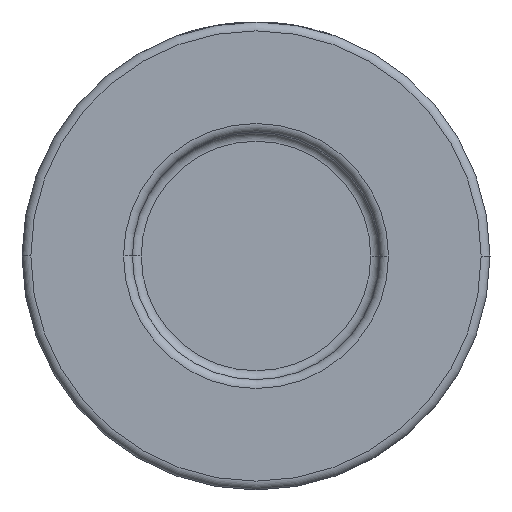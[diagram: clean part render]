
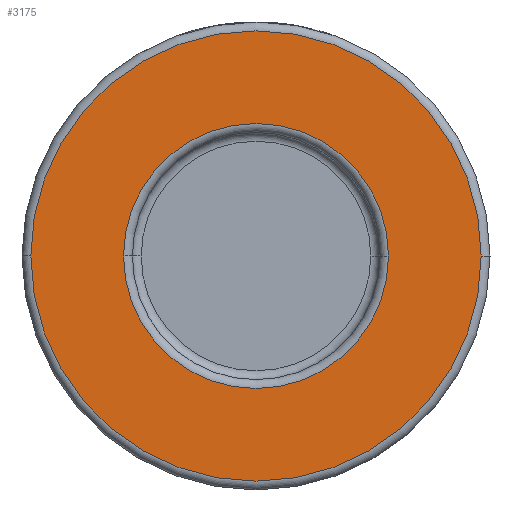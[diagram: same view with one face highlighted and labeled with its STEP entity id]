
A CAD part, front view. The second image highlights one B-rep face of the part: STEP entity #3175.
In plain terms, the highlighted planar face has unit normal (0, -1, 0).
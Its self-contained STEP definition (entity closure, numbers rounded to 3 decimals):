
#198 = AXIS2_PLACEMENT_3D ( 'NONE', #1016, #1707, #360 ) ;
#360 = DIRECTION ( 'NONE',  ( 1., 0., 0. ) ) ;
#402 = FACE_OUTER_BOUND ( 'NONE', #2369, .T. ) ;
#429 = CARTESIAN_POINT ( 'NONE',  ( -15., -16., 0. ) ) ;
#463 = DIRECTION ( 'NONE',  ( 0., 1., 0. ) ) ;
#486 = CIRCLE ( 'NONE', #4276, 15. ) ;
#523 = EDGE_LOOP ( 'NONE', ( #2312, #2915 ) ) ;
#676 = PLANE ( 'NONE',  #198 ) ;
#677 = DIRECTION ( 'NONE',  ( 1., 0., 0. ) ) ;
#757 = VERTEX_POINT ( 'NONE', #1820 ) ;
#801 = DIRECTION ( 'NONE',  ( 0., 1., 0. ) ) ;
#879 = CIRCLE ( 'NONE', #3044, 15. ) ;
#1016 = CARTESIAN_POINT ( 'NONE',  ( 26.5, -16., 0. ) ) ;
#1023 = DIRECTION ( 'NONE',  ( 0., -1., 0. ) ) ;
#1029 = EDGE_CURVE ( 'NONE', #2704, #757, #1166, .T. ) ;
#1052 = EDGE_CURVE ( 'NONE', #1578, #1614, #879, .T. ) ;
#1166 = CIRCLE ( 'NONE', #4388, 25.5 ) ;
#1203 = DIRECTION ( 'NONE',  ( 1., 0., 0. ) ) ;
#1292 = CARTESIAN_POINT ( 'NONE',  ( -25.5, -16., 0. ) ) ;
#1390 = FACE_BOUND ( 'NONE', #523, .T. ) ;
#1412 = DIRECTION ( 'NONE',  ( 1., 0., 0. ) ) ;
#1533 = CARTESIAN_POINT ( 'NONE',  ( 0., -16., 0. ) ) ;
#1578 = VERTEX_POINT ( 'NONE', #1800 ) ;
#1614 = VERTEX_POINT ( 'NONE', #429 ) ;
#1707 = DIRECTION ( 'NONE',  ( 0., -1., 0. ) ) ;
#1800 = CARTESIAN_POINT ( 'NONE',  ( 15., -16., 0. ) ) ;
#1820 = CARTESIAN_POINT ( 'NONE',  ( 25.5, -16., 0. ) ) ;
#1840 = EDGE_CURVE ( 'NONE', #757, #2704, #4058, .T. ) ;
#2065 = ORIENTED_EDGE ( 'NONE', *, *, #1840, .T. ) ;
#2127 = AXIS2_PLACEMENT_3D ( 'NONE', #3113, #1023, #3450 ) ;
#2170 = ORIENTED_EDGE ( 'NONE', *, *, #1029, .T. ) ;
#2312 = ORIENTED_EDGE ( 'NONE', *, *, #1052, .T. ) ;
#2369 = EDGE_LOOP ( 'NONE', ( #2065, #2170 ) ) ;
#2394 = CARTESIAN_POINT ( 'NONE',  ( 0., -16., 0. ) ) ;
#2704 = VERTEX_POINT ( 'NONE', #1292 ) ;
#2915 = ORIENTED_EDGE ( 'NONE', *, *, #3672, .T. ) ;
#3044 = AXIS2_PLACEMENT_3D ( 'NONE', #3216, #801, #1412 ) ;
#3113 = CARTESIAN_POINT ( 'NONE',  ( 0., -16., 0. ) ) ;
#3175 = ADVANCED_FACE ( 'NONE', ( #1390, #402 ), #676, .T. ) ;
#3216 = CARTESIAN_POINT ( 'NONE',  ( 0., -16., 0. ) ) ;
#3450 = DIRECTION ( 'NONE',  ( 1., 0., 0. ) ) ;
#3672 = EDGE_CURVE ( 'NONE', #1614, #1578, #486, .T. ) ;
#4058 = CIRCLE ( 'NONE', #2127, 25.5 ) ;
#4084 = DIRECTION ( 'NONE',  ( 0., -1., 0. ) ) ;
#4276 = AXIS2_PLACEMENT_3D ( 'NONE', #1533, #463, #1203 ) ;
#4388 = AXIS2_PLACEMENT_3D ( 'NONE', #2394, #4084, #677 ) ;
